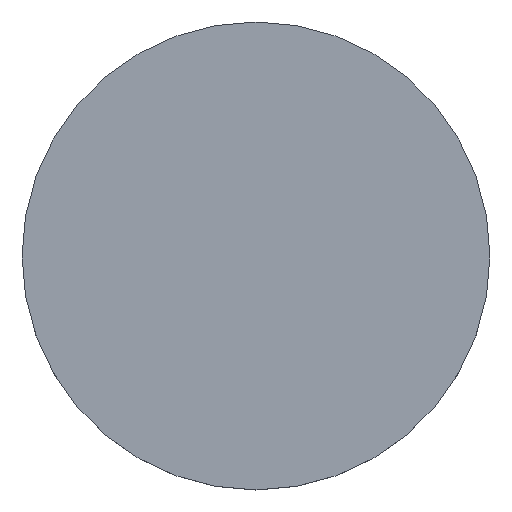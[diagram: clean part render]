
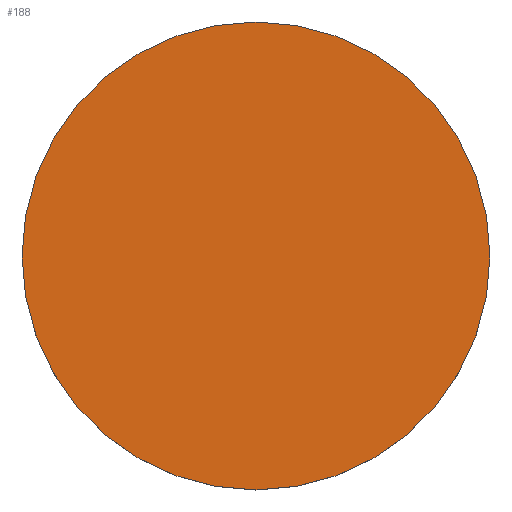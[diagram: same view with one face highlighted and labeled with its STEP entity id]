
A CAD part, top view. The second image highlights one B-rep face of the part: STEP entity #188.
In plain terms, the highlighted planar face has unit normal (0, 0, 1).
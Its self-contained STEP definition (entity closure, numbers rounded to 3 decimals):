
#21 = EDGE_CURVE('',#22,#24,#26,.T.);
#22 = VERTEX_POINT('',#23);
#23 = CARTESIAN_POINT('',(16.5,0.,3.));
#24 = VERTEX_POINT('',#25);
#25 = CARTESIAN_POINT('',(-16.5,0.,3.));
#26 = SURFACE_CURVE('',#27,(#32,#44),.PCURVE_S1.);
#27 = CIRCLE('',#28,16.5);
#28 = AXIS2_PLACEMENT_3D('',#29,#30,#31);
#29 = CARTESIAN_POINT('',(0.,0.,3.));
#30 = DIRECTION('',(0.,0.,1.));
#31 = DIRECTION('',(1.,0.,-0.));
#32 = PCURVE('',#33,#38);
#33 = CYLINDRICAL_SURFACE('',#34,16.5);
#34 = AXIS2_PLACEMENT_3D('',#35,#36,#37);
#35 = CARTESIAN_POINT('',(0.,0.,49.669));
#36 = DIRECTION('',(-0.,-0.,-1.));
#37 = DIRECTION('',(-1.,0.,0.));
#38 = DEFINITIONAL_REPRESENTATION('',(#39),#43);
#39 = LINE('',#40,#41);
#40 = CARTESIAN_POINT('',(3.142,46.669));
#41 = VECTOR('',#42,1.);
#42 = DIRECTION('',(-1.,0.));
#43 = ( GEOMETRIC_REPRESENTATION_CONTEXT(2) 
PARAMETRIC_REPRESENTATION_CONTEXT() REPRESENTATION_CONTEXT('2D SPACE',''
  ) );
#44 = PCURVE('',#45,#50);
#45 = PLANE('',#46);
#46 = AXIS2_PLACEMENT_3D('',#47,#48,#49);
#47 = CARTESIAN_POINT('',(0.,0.,3.));
#48 = DIRECTION('',(0.,0.,1.));
#49 = DIRECTION('',(-0.,1.,0.));
#50 = DEFINITIONAL_REPRESENTATION('',(#51),#55);
#51 = CIRCLE('',#52,16.5);
#52 = AXIS2_PLACEMENT_2D('',#53,#54);
#53 = CARTESIAN_POINT('',(0.,0.));
#54 = DIRECTION('',(0.,-1.));
#55 = ( GEOMETRIC_REPRESENTATION_CONTEXT(2) 
PARAMETRIC_REPRESENTATION_CONTEXT() REPRESENTATION_CONTEXT('2D SPACE',''
  ) );
#73 = CYLINDRICAL_SURFACE('',#74,16.5);
#74 = AXIS2_PLACEMENT_3D('',#75,#76,#77);
#75 = CARTESIAN_POINT('',(0.,0.,49.669));
#76 = DIRECTION('',(-0.,-0.,-1.));
#77 = DIRECTION('',(-1.,0.,0.));
#139 = EDGE_CURVE('',#24,#22,#140,.T.);
#140 = SURFACE_CURVE('',#141,(#146,#153),.PCURVE_S1.);
#141 = CIRCLE('',#142,16.5);
#142 = AXIS2_PLACEMENT_3D('',#143,#144,#145);
#143 = CARTESIAN_POINT('',(0.,0.,3.));
#144 = DIRECTION('',(0.,0.,1.));
#145 = DIRECTION('',(1.,0.,-0.));
#146 = PCURVE('',#73,#147);
#147 = DEFINITIONAL_REPRESENTATION('',(#148),#152);
#148 = LINE('',#149,#150);
#149 = CARTESIAN_POINT('',(9.425,46.669));
#150 = VECTOR('',#151,1.);
#151 = DIRECTION('',(-1.,0.));
#152 = ( GEOMETRIC_REPRESENTATION_CONTEXT(2) 
PARAMETRIC_REPRESENTATION_CONTEXT() REPRESENTATION_CONTEXT('2D SPACE',''
  ) );
#153 = PCURVE('',#45,#154);
#154 = DEFINITIONAL_REPRESENTATION('',(#155),#159);
#155 = CIRCLE('',#156,16.5);
#156 = AXIS2_PLACEMENT_2D('',#157,#158);
#157 = CARTESIAN_POINT('',(0.,0.));
#158 = DIRECTION('',(0.,-1.));
#159 = ( GEOMETRIC_REPRESENTATION_CONTEXT(2) 
PARAMETRIC_REPRESENTATION_CONTEXT() REPRESENTATION_CONTEXT('2D SPACE',''
  ) );
#188 = ADVANCED_FACE('',(#189),#45,.T.);
#189 = FACE_BOUND('',#190,.T.);
#190 = EDGE_LOOP('',(#191,#192));
#191 = ORIENTED_EDGE('',*,*,#139,.T.);
#192 = ORIENTED_EDGE('',*,*,#21,.T.);
